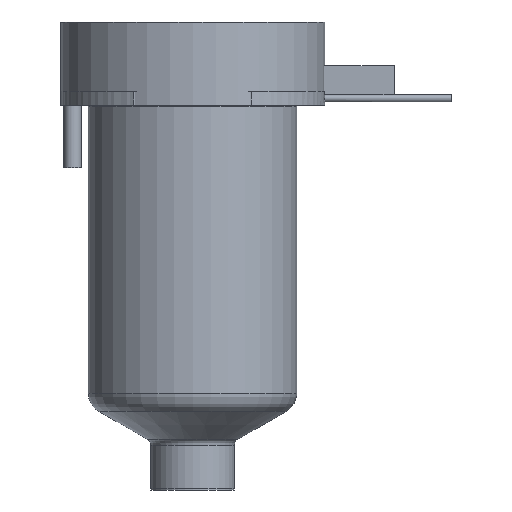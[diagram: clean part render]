
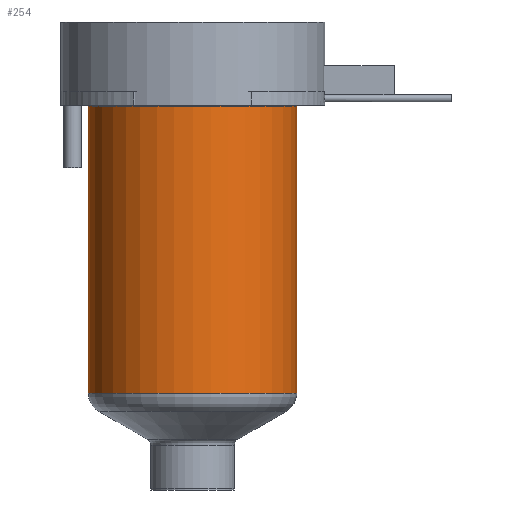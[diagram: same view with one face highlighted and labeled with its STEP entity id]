
A CAD part, front view. The second image highlights one B-rep face of the part: STEP entity #254.
In plain terms, the highlighted cylindrical face has radius 15 mm (diameter 30 mm), a full revolution.
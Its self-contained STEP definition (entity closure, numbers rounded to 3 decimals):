
#131=CYLINDRICAL_SURFACE('',#1130,15.);
#186=FACE_BOUND('',#425,.T.);
#187=FACE_BOUND('',#426,.T.);
#254=ADVANCED_FACE('',(#186,#187),#131,.T.);
#425=EDGE_LOOP('',(#716));
#426=EDGE_LOOP('',(#717));
#495=CIRCLE('',#1128,15.);
#496=CIRCLE('',#1129,15.);
#716=ORIENTED_EDGE('',*,*,#927,.F.);
#717=ORIENTED_EDGE('',*,*,#928,.T.);
#812=VERTEX_POINT('',#1897);
#813=VERTEX_POINT('',#1899);
#927=EDGE_CURVE('',#812,#812,#495,.T.);
#928=EDGE_CURVE('',#813,#813,#496,.T.);
#1128=AXIS2_PLACEMENT_3D('',#1896,#1406,#1407);
#1129=AXIS2_PLACEMENT_3D('',#1898,#1408,#1409);
#1130=AXIS2_PLACEMENT_3D('',#1900,#1410,#1411);
#1406=DIRECTION('',(0.,0.,-1.));
#1407=DIRECTION('',(-1.,0.,0.));
#1408=DIRECTION('',(0.,0.,-1.));
#1409=DIRECTION('',(1.,0.,0.));
#1410=DIRECTION('',(0.,0.,-1.));
#1411=DIRECTION('',(-1.,0.,0.));
#1896=CARTESIAN_POINT('',(0.,0.,-53.42));
#1897=CARTESIAN_POINT('',(-15.,0.,-53.42));
#1898=CARTESIAN_POINT('',(0.,0.,-12.1));
#1899=CARTESIAN_POINT('',(15.,0.,-12.1));
#1900=CARTESIAN_POINT('',(0.,0.,0.));
